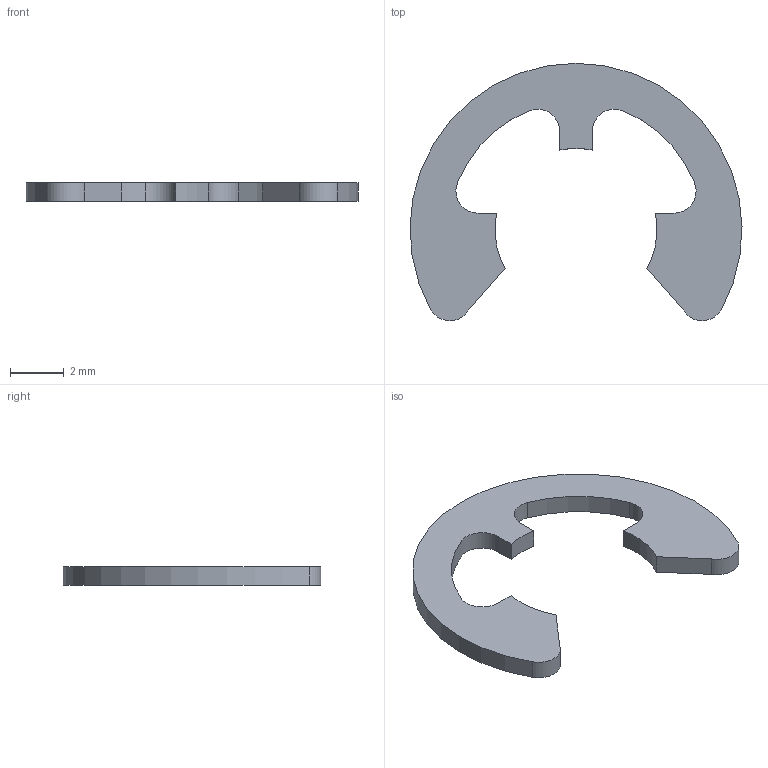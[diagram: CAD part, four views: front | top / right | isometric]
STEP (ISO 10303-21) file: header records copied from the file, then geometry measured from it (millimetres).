
FILE_DESCRIPTION(/* description */ ('(C) Elphel, Inc. 2012. Licensed under CERN OHL v.1.1 or later, see http://ohwr.org/cernohl'),/* implementation_level */ '2;1');
FILE_NAME(/* name */ '0353-83-20',/* time_stamp */ '2012-12-06T01:08:48-07:00',/* author */ (''),/* organization */ ('Elphel, Inc'),/* preprocessor_version */ 'ST-DEVELOPER v12',/* originating_system */ 'VariCAD 2012-1.04; kernel version (20100102)',/* authorisation */ '');
FILE_SCHEMA (('CONFIG_CONTROL_DESIGN'));
Length unit declared in the file: millimetre
Products named in the file (1): Part
Bounding box: 12.3 x 9.53 x 0.7 mm (x, y, z)
Volume: 33.1 mm3; surface area: 133.2 mm2
Topology: 1 solids, 1 shells, 20 faces, 54 edges, 36 vertices
Faces by surface type: cylinder 12, plane 8
Entity records: 688 total; most frequent: DIRECTION 122, CARTESIAN_POINT 112, ORIENTED_EDGE 108, EDGE_CURVE 54, AXIS2_PLACEMENT_3D 46, VERTEX_POINT 36, LINE 30, VECTOR 30
